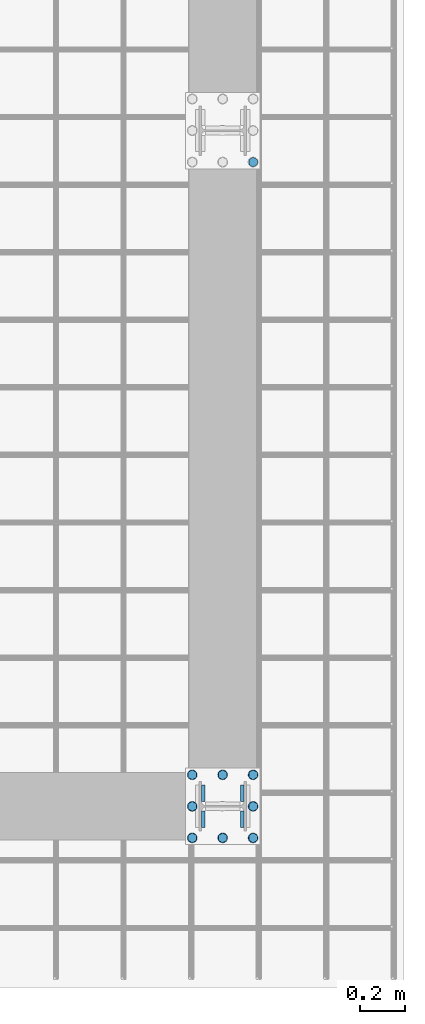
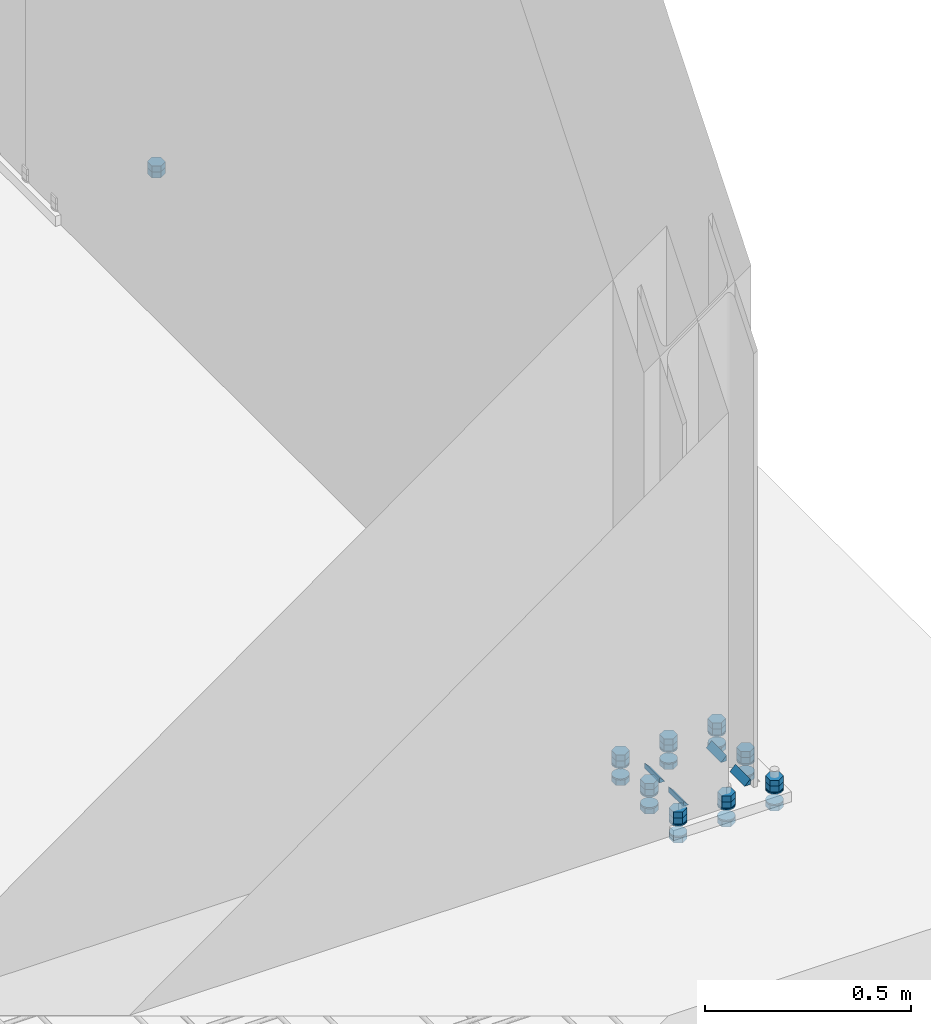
# One storey, part 16 of 29: 42 mechanical fasteners, 8 fasteners.
"""IFC4 building model written with IfcOpenShell, lengths in metres."""

from ifc_helpers import new_model, si_unit, frame, origin_with_axes, place, context, project, spatial, polyline, outline, extrude, type_object, element, save


model = new_model("IFC4")

# Units and contexts
model_context = context("Model", 3, precision=1e-05, world=origin_with_axes())
ifc_project = project(units=[si_unit("LENGTHUNIT", "METRE"), si_unit("AREAUNIT", "SQUARE_METRE"), si_unit("VOLUMEUNIT", "CUBIC_METRE"), si_unit("MASSUNIT", "GRAM", prefix="KILO"), si_unit("TIMEUNIT", "SECOND"), si_unit("PLANEANGLEUNIT", "RADIAN"), si_unit("SOLIDANGLEUNIT", "STERADIAN"), si_unit("THERMODYNAMICTEMPERATUREUNIT", "DEGREE_CELSIUS")], contexts=[model_context])

# Site, building, storey
placement_1 = place(None, origin_with_axes())
site = spatial("IfcSite", under=ifc_project, at=placement_1, Name="Italia", CompositionType="ELEMENT")
building = spatial("IfcBuilding", under=site, at=placement_1, Name="Capannone", CompositionType="ELEMENT")
storey = spatial("IfcBuildingStorey", under=building, at=placement_1, Name="Storey 0", CompositionType="ELEMENT", Elevation=0.0)

# Fasteners
fastener_type_1 = type_object("IfcFastenerType", Name="Collegamenti 0001_0101 0002_0102 0003_0103 0004_0104 0005_0105 0006_0106 0007_0107 0008_0108 0009_0109 0010_0110 0011_0111 0012_0112", PredefinedType="WELD")
placement_2 = place(placement_1, origin_with_axes())
fastener_1_placement = place(placement_2, origin_with_axes())
element("IfcFastener", 1, at=fastener_1_placement, inside=storey, type_object=fastener_type_1, Name="Collegamenti 0001_0101 0002_0102 0003_0103 0004_0104 0005_0105 0006_0106 0007_0107 0008_0108 0009_0109 0010_0110 0011_0111 0012_0112", context=model_context, shape_type="SweptSolid", body=[
    extrude(outline(polyline([(0.0, 0.0), (0.0156889, 0.0161734), (0.0156889, 0.0), (0.0, 0.0)])), frame((13.9216, 0.02145, 0.02995), z_axis=(0.0, 1.0, 0.0), x_axis=(-1.0, 0.0, 0.0)), (0.0, 0.0, 1.0), 0.0726),
])
fastener_type_2 = type_object("IfcFastenerType", Name="Collegamenti 0001_0101 0002_0102 0003_0103 0004_0104 0005_0105 0006_0106 0007_0107 0008_0108 0009_0109 0010_0110 0011_0111 0012_0112", PredefinedType="WELD")
fastener_2_placement = place(placement_2, origin_with_axes())
element("IfcFastener", 2, at=fastener_2_placement, inside=storey, type_object=fastener_type_2, Name="Collegamenti 0001_0101 0002_0102 0003_0103 0004_0104 0005_0105 0006_0106 0007_0107 0008_0108 0009_0109 0010_0110 0011_0111 0012_0112", context=model_context, shape_type="SweptSolid", body=[
    extrude(outline(polyline([(0.0, 0.0), (0.0156889, 0.0161734), (0.0156889, 0.0), (0.0, 0.0)])), frame((14.0784, 0.09405, 0.02995), z_axis=(0.0, -1.0, 0.0), x_axis=(1.0, 0.0, 0.0)), (0.0, 0.0, 1.0), 0.0726),
])
fastener_type_3 = type_object("IfcFastenerType", Name="Collegamenti 0001_0101 0002_0102 0003_0103 0004_0104 0005_0105 0006_0106 0007_0107 0008_0108 0009_0109 0010_0110 0011_0111 0012_0112", PredefinedType="WELD")
fastener_3_placement = place(placement_2, origin_with_axes())
element("IfcFastener", 3, at=fastener_3_placement, inside=storey, type_object=fastener_type_3, Name="Collegamenti 0001_0101 0002_0102 0003_0103 0004_0104 0005_0105 0006_0106 0007_0107 0008_0108 0009_0109 0010_0110 0011_0111 0012_0112", context=model_context, shape_type="SweptSolid", body=[
    extrude(outline(polyline([(0.0, 0.0), (0.0156889, 0.0161734), (0.0156889, 0.0), (0.0, 0.0)])), frame((14.0784, -0.02145, 0.02995), z_axis=(0.0, -1.0, 0.0), x_axis=(1.0, 0.0, 0.0)), (0.0, 0.0, 1.0), 0.0726),
])
fastener_type_4 = type_object("IfcFastenerType", Name="Collegamenti 0001_0101 0002_0102 0003_0103 0004_0104 0005_0105 0006_0106 0007_0107 0008_0108 0009_0109 0010_0110 0011_0111 0012_0112", PredefinedType="WELD")
fastener_4_placement = place(placement_2, origin_with_axes())
element("IfcFastener", 4, at=fastener_4_placement, inside=storey, type_object=fastener_type_4, Name="Collegamenti 0001_0101 0002_0102 0003_0103 0004_0104 0005_0105 0006_0106 0007_0107 0008_0108 0009_0109 0010_0110 0011_0111 0012_0112", context=model_context, shape_type="SweptSolid", body=[
    extrude(outline(polyline([(0.0, 0.0), (0.0156889, 0.0161734), (0.0156889, 0.0), (0.0, 0.0)])), frame((13.9216, -0.09405, 0.02995), z_axis=(0.0, 1.0, 0.0), x_axis=(-1.0, 0.0, 0.0)), (0.0, 0.0, 1.0), 0.0726),
])
fastener_type_5 = type_object("IfcFastenerType", Name="Collegamenti 0001_0101 0002_0102 0003_0103 0004_0104 0005_0105 0006_0106 0007_0107 0008_0108 0009_0109 0010_0110 0011_0111 0012_0112", PredefinedType="WELD")
fastener_5_placement = place(placement_2, origin_with_axes())
element("IfcFastener", 5, at=fastener_5_placement, inside=storey, type_object=fastener_type_5, Name="Collegamenti 0001_0101 0002_0102 0003_0103 0004_0104 0005_0105 0006_0106 0007_0107 0008_0108 0009_0109 0010_0110 0011_0111 0012_0112", context=model_context, shape_type="SweptSolid", body=[
    extrude(outline(polyline([(0.0, 0.0), (0.0156889, 0.0161734), (0.0156889, 0.0), (0.0, 0.0)])), frame((13.9216, 0.02145, 0.02995), z_axis=(0.0, 1.0, 0.0), x_axis=(-1.0, 0.0, 0.0)), (0.0, 0.0, 1.0), 0.0726),
])
fastener_type_6 = type_object("IfcFastenerType", Name="Collegamenti 0001_0101 0002_0102 0003_0103 0004_0104 0005_0105 0006_0106 0007_0107 0008_0108 0009_0109 0010_0110 0011_0111 0012_0112", PredefinedType="WELD")
fastener_6_placement = place(placement_2, origin_with_axes())
element("IfcFastener", 6, at=fastener_6_placement, inside=storey, type_object=fastener_type_6, Name="Collegamenti 0001_0101 0002_0102 0003_0103 0004_0104 0005_0105 0006_0106 0007_0107 0008_0108 0009_0109 0010_0110 0011_0111 0012_0112", context=model_context, shape_type="SweptSolid", body=[
    extrude(outline(polyline([(0.0, 0.0), (0.0156889, 0.0161734), (0.0156889, 0.0), (0.0, 0.0)])), frame((14.0784, 0.09405, 0.02995), z_axis=(0.0, -1.0, 0.0), x_axis=(1.0, 0.0, 0.0)), (0.0, 0.0, 1.0), 0.0726),
])
fastener_type_7 = type_object("IfcFastenerType", Name="Collegamenti 0001_0101 0002_0102 0003_0103 0004_0104 0005_0105 0006_0106 0007_0107 0008_0108 0009_0109 0010_0110 0011_0111 0012_0112", PredefinedType="WELD")
fastener_7_placement = place(placement_2, origin_with_axes())
element("IfcFastener", 7, at=fastener_7_placement, inside=storey, type_object=fastener_type_7, Name="Collegamenti 0001_0101 0002_0102 0003_0103 0004_0104 0005_0105 0006_0106 0007_0107 0008_0108 0009_0109 0010_0110 0011_0111 0012_0112", context=model_context, shape_type="SweptSolid", body=[
    extrude(outline(polyline([(0.0, 0.0), (0.0156889, 0.0161734), (0.0156889, 0.0), (0.0, 0.0)])), frame((14.0784, -0.02145, 0.02995), z_axis=(0.0, -1.0, 0.0), x_axis=(1.0, 0.0, 0.0)), (0.0, 0.0, 1.0), 0.0726),
])
fastener_type_8 = type_object("IfcFastenerType", Name="Collegamenti 0001_0101 0002_0102 0003_0103 0004_0104 0005_0105 0006_0106 0007_0107 0008_0108 0009_0109 0010_0110 0011_0111 0012_0112", PredefinedType="WELD")
fastener_8_placement = place(placement_2, origin_with_axes())
element("IfcFastener", 8, at=fastener_8_placement, inside=storey, type_object=fastener_type_8, Name="Collegamenti 0001_0101 0002_0102 0003_0103 0004_0104 0005_0105 0006_0106 0007_0107 0008_0108 0009_0109 0010_0110 0011_0111 0012_0112", context=model_context, shape_type="SweptSolid", body=[
    extrude(outline(polyline([(0.0, 0.0), (0.0156889, 0.0161734), (0.0156889, 0.0), (0.0, 0.0)])), frame((13.9216, -0.09405, 0.02995), z_axis=(0.0, 1.0, 0.0), x_axis=(-1.0, 0.0, 0.0)), (0.0, 0.0, 1.0), 0.0726),
])

# Mechanical fasteners
mechanical_fastener_type_1 = type_object("IfcMechanicalFastenerType", Name="Collegamenti 0001_0101 0002_0102 0003_0103 0004_0104 0005_0105 0006_0106 0007_0107 0008_0108 0009_0109 0010_0110 0011_0111 0012_0112", PredefinedType="BOLT")
mechanical_fastener_1_placement = place(placement_2, origin_with_axes())
element("IfcMechanicalFastener", 9, at=mechanical_fastener_1_placement, inside=storey, type_object=mechanical_fastener_type_1, Name="Collegamenti 0001_0101 0002_0102 0003_0103 0004_0104 0005_0105 0006_0106 0007_0107 0008_0108 0009_0109 0010_0110 0011_0111 0012_0112", NominalDiameter=0.0219999, context=model_context, shape_type="SweptSolid", body=[
    extrude(outline(polyline([(0.0, 0.0), (-0.022, 0.0), (-0.033, 0.0190525), (-0.022, 0.038105), (0.0, 0.038105), (0.011, 0.0190525), (0.0, 0.0)])), frame((14.1541, -0.129, 0.034), z_axis=(0.0, 0.0, 1.0), x_axis=(0.0, 1.0, 0.0)), (0.0, 0.0, 1.0), 0.0176),
])
mechanical_fastener_type_2 = type_object("IfcMechanicalFastenerType", Name="Collegamenti 0001_0101 0002_0102 0003_0103 0004_0104 0005_0105 0006_0106 0007_0107 0008_0108 0009_0109 0010_0110 0011_0111 0012_0112", PredefinedType="BOLT")
mechanical_fastener_2_placement = place(placement_2, origin_with_axes())
element("IfcMechanicalFastener", 10, at=mechanical_fastener_2_placement, inside=storey, type_object=mechanical_fastener_type_2, Name="Collegamenti 0001_0101 0002_0102 0003_0103 0004_0104 0005_0105 0006_0106 0007_0107 0008_0108 0009_0109 0010_0110 0011_0111 0012_0112", NominalDiameter=0.0219999, context=model_context, shape_type="SweptSolid", body=[
    extrude(outline(polyline([(0.0, 0.0), (-0.022, 0.0), (-0.033, 0.0190525), (-0.022, 0.038105), (0.0, 0.038105), (0.011, 0.0190525), (0.0, 0.0)])), frame((14.1541, -0.129, 0.0516), z_axis=(0.0, 0.0, 1.0), x_axis=(0.0, 1.0, 0.0)), (0.0, 0.0, 1.0), 0.0176),
])
mechanical_fastener_type_3 = type_object("IfcMechanicalFastenerType", Name="Collegamenti 0001_0101 0002_0102 0003_0103 0004_0104 0005_0105 0006_0106 0007_0107 0008_0108 0009_0109 0010_0110 0011_0111 0012_0112", PredefinedType="BOLT")
mechanical_fastener_3_placement = place(placement_2, origin_with_axes())
element("IfcMechanicalFastener", 11, at=mechanical_fastener_3_placement, inside=storey, type_object=mechanical_fastener_type_3, Name="Collegamenti 0001_0101 0002_0102 0003_0103 0004_0104 0005_0105 0006_0106 0007_0107 0008_0108 0009_0109 0010_0110 0011_0111 0012_0112", NominalDiameter=0.0219999, context=model_context, shape_type="SweptSolid", body=[
    extrude(outline(polyline([(0.0, 0.0), (-0.022, 0.0), (-0.033, 0.0190525), (-0.022, 0.038105), (0.0, 0.038105), (0.011, 0.0190525), (0.0, 0.0)])), frame((14.1541, -0.129, -0.0216), z_axis=(0.0, 0.0, 1.0), x_axis=(0.0, 1.0, 0.0)), (0.0, 0.0, 1.0), 0.0176),
])
mechanical_fastener_type_4 = type_object("IfcMechanicalFastenerType", Name="Collegamenti 0001_0101 0002_0102 0003_0103 0004_0104 0005_0105 0006_0106 0007_0107 0008_0108 0009_0109 0010_0110 0011_0111 0012_0112", PredefinedType="BOLT")
mechanical_fastener_4_placement = place(placement_2, origin_with_axes())
element("IfcMechanicalFastener", 12, at=mechanical_fastener_4_placement, inside=storey, type_object=mechanical_fastener_type_4, Name="Collegamenti 0001_0101 0002_0102 0003_0103 0004_0104 0005_0105 0006_0106 0007_0107 0008_0108 0009_0109 0010_0110 0011_0111 0012_0112", NominalDiameter=0.044, context=model_context, shape_type="SweptSolid", body=[
    extrude(outline(polyline([(0.0, 0.0), (-0.000749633, -0.00569439), (-0.00294744, -0.0109997), (-0.00644365, -0.0155563), (-0.011, -0.0190525), (-0.016306, -0.0212507), (-0.022, -0.0220003), (-0.027694, -0.0212507), (-0.033, -0.0190525), (-0.0375564, -0.0155563), (-0.0410526, -0.0109997), (-0.0432504, -0.00569439), (-0.044, 0.0), (-0.0432504, 0.00569439), (-0.0410526, 0.0109997), (-0.0375564, 0.0155563), (-0.033, 0.0190525), (-0.027694, 0.0212507), (-0.022, 0.0220003), (-0.016306, 0.0212507), (-0.011, 0.0190525), (-0.00644365, 0.0155563), (-0.00294743, 0.0109997), (-0.000749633, 0.00569439), (0.0, 0.0)])), frame((14.135, -0.118, 0.03), z_axis=(0.0, 0.0, 1.0), x_axis=(0.0, 1.0, 0.0)), (0.0, 0.0, 1.0), 0.004),
])
mechanical_fastener_type_5 = type_object("IfcMechanicalFastenerType", Name="Collegamenti 0001_0101 0002_0102 0003_0103 0004_0104 0005_0105 0006_0106 0007_0107 0008_0108 0009_0109 0010_0110 0011_0111 0012_0112", PredefinedType="BOLT")
mechanical_fastener_5_placement = place(placement_2, origin_with_axes())
element("IfcMechanicalFastener", 13, at=mechanical_fastener_5_placement, inside=storey, type_object=mechanical_fastener_type_5, Name="Collegamenti 0001_0101 0002_0102 0003_0103 0004_0104 0005_0105 0006_0106 0007_0107 0008_0108 0009_0109 0010_0110 0011_0111 0012_0112", NominalDiameter=0.044, context=model_context, shape_type="SweptSolid", body=[
    extrude(outline(polyline([(0.0, 0.0), (-0.000749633, -0.00569439), (-0.00294744, -0.0109997), (-0.00644365, -0.0155563), (-0.011, -0.0190525), (-0.016306, -0.0212507), (-0.022, -0.0220003), (-0.027694, -0.0212507), (-0.033, -0.0190525), (-0.0375564, -0.0155563), (-0.0410526, -0.0109997), (-0.0432504, -0.00569439), (-0.044, 0.0), (-0.0432504, 0.00569439), (-0.0410526, 0.0109997), (-0.0375564, 0.0155563), (-0.033, 0.0190525), (-0.027694, 0.0212507), (-0.022, 0.0220003), (-0.016306, 0.0212507), (-0.011, 0.0190525), (-0.00644365, 0.0155563), (-0.00294743, 0.0109997), (-0.000749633, 0.00569439), (0.0, 0.0)])), frame((14.135, -0.118, -0.004), z_axis=(0.0, 0.0, 1.0), x_axis=(0.0, 1.0, 0.0)), (0.0, 0.0, 1.0), 0.004),
])
mechanical_fastener_type_6 = type_object("IfcMechanicalFastenerType", Name="Collegamenti 0001_0101 0002_0102 0003_0103 0004_0104 0005_0105 0006_0106 0007_0107 0008_0108 0009_0109 0010_0110 0011_0111 0012_0112", PredefinedType="BOLT")
mechanical_fastener_6_placement = place(placement_2, origin_with_axes())
element("IfcMechanicalFastener", 14, at=mechanical_fastener_6_placement, inside=storey, type_object=mechanical_fastener_type_6, Name="Collegamenti 0001_0101 0002_0102 0003_0103 0004_0104 0005_0105 0006_0106 0007_0107 0008_0108 0009_0109 0010_0110 0011_0111 0012_0112", NominalDiameter=0.022, context=model_context, shape_type="SweptSolid", body=[
    extrude(outline(polyline([(0.0, 0.0), (-0.022, 0.0), (-0.033, 0.0190525), (-0.022, 0.038105), (0.0, 0.038105), (0.011, 0.0190525), (0.0, 0.0)])), frame((14.1541, 0.011, 0.034), z_axis=(0.0, 0.0, 1.0), x_axis=(0.0, 1.0, 0.0)), (0.0, 0.0, 1.0), 0.0176),
])
mechanical_fastener_type_7 = type_object("IfcMechanicalFastenerType", Name="Collegamenti 0001_0101 0002_0102 0003_0103 0004_0104 0005_0105 0006_0106 0007_0107 0008_0108 0009_0109 0010_0110 0011_0111 0012_0112", PredefinedType="BOLT")
mechanical_fastener_7_placement = place(placement_2, origin_with_axes())
element("IfcMechanicalFastener", 15, at=mechanical_fastener_7_placement, inside=storey, type_object=mechanical_fastener_type_7, Name="Collegamenti 0001_0101 0002_0102 0003_0103 0004_0104 0005_0105 0006_0106 0007_0107 0008_0108 0009_0109 0010_0110 0011_0111 0012_0112", NominalDiameter=0.022, context=model_context, shape_type="SweptSolid", body=[
    extrude(outline(polyline([(0.0, 0.0), (-0.022, 0.0), (-0.033, 0.0190525), (-0.022, 0.038105), (0.0, 0.038105), (0.011, 0.0190525), (0.0, 0.0)])), frame((14.1541, 0.011, 0.0516), z_axis=(0.0, 0.0, 1.0), x_axis=(0.0, 1.0, 0.0)), (0.0, 0.0, 1.0), 0.0176),
])
mechanical_fastener_type_8 = type_object("IfcMechanicalFastenerType", Name="Collegamenti 0001_0101 0002_0102 0003_0103 0004_0104 0005_0105 0006_0106 0007_0107 0008_0108 0009_0109 0010_0110 0011_0111 0012_0112", PredefinedType="BOLT")
mechanical_fastener_8_placement = place(placement_2, origin_with_axes())
element("IfcMechanicalFastener", 16, at=mechanical_fastener_8_placement, inside=storey, type_object=mechanical_fastener_type_8, Name="Collegamenti 0001_0101 0002_0102 0003_0103 0004_0104 0005_0105 0006_0106 0007_0107 0008_0108 0009_0109 0010_0110 0011_0111 0012_0112", NominalDiameter=0.022, context=model_context, shape_type="SweptSolid", body=[
    extrude(outline(polyline([(0.0, 0.0), (-0.022, 0.0), (-0.033, 0.0190525), (-0.022, 0.038105), (0.0, 0.038105), (0.011, 0.0190525), (0.0, 0.0)])), frame((14.1541, 0.011, -0.0216), z_axis=(0.0, 0.0, 1.0), x_axis=(0.0, 1.0, 0.0)), (0.0, 0.0, 1.0), 0.0176),
])
mechanical_fastener_type_9 = type_object("IfcMechanicalFastenerType", Name="Collegamenti 0001_0101 0002_0102 0003_0103 0004_0104 0005_0105 0006_0106 0007_0107 0008_0108 0009_0109 0010_0110 0011_0111 0012_0112", PredefinedType="BOLT")
mechanical_fastener_9_placement = place(placement_2, origin_with_axes())
element("IfcMechanicalFastener", 17, at=mechanical_fastener_9_placement, inside=storey, type_object=mechanical_fastener_type_9, Name="Collegamenti 0001_0101 0002_0102 0003_0103 0004_0104 0005_0105 0006_0106 0007_0107 0008_0108 0009_0109 0010_0110 0011_0111 0012_0112", NominalDiameter=0.044, context=model_context, shape_type="SweptSolid", body=[
    extrude(outline(polyline([(0.0, 0.0), (-0.000749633, -0.00569439), (-0.00294744, -0.0109997), (-0.00644365, -0.0155563), (-0.011, -0.0190525), (-0.016306, -0.0212507), (-0.022, -0.0220003), (-0.027694, -0.0212507), (-0.033, -0.0190525), (-0.0375564, -0.0155563), (-0.0410526, -0.0109997), (-0.0432504, -0.00569439), (-0.044, 0.0), (-0.0432504, 0.00569439), (-0.0410526, 0.0109997), (-0.0375563, 0.0155563), (-0.033, 0.0190525), (-0.027694, 0.0212507), (-0.022, 0.0220003), (-0.016306, 0.0212507), (-0.011, 0.0190525), (-0.00644365, 0.0155563), (-0.00294744, 0.0109997), (-0.000749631, 0.00569439), (0.0, 0.0)])), frame((14.135, 0.022, 0.03), z_axis=(0.0, 0.0, 1.0), x_axis=(0.0, 1.0, 0.0)), (0.0, 0.0, 1.0), 0.004),
])
mechanical_fastener_type_10 = type_object("IfcMechanicalFastenerType", Name="Collegamenti 0001_0101 0002_0102 0003_0103 0004_0104 0005_0105 0006_0106 0007_0107 0008_0108 0009_0109 0010_0110 0011_0111 0012_0112", PredefinedType="BOLT")
mechanical_fastener_10_placement = place(placement_2, origin_with_axes())
element("IfcMechanicalFastener", 18, at=mechanical_fastener_10_placement, inside=storey, type_object=mechanical_fastener_type_10, Name="Collegamenti 0001_0101 0002_0102 0003_0103 0004_0104 0005_0105 0006_0106 0007_0107 0008_0108 0009_0109 0010_0110 0011_0111 0012_0112", NominalDiameter=0.044, context=model_context, shape_type="SweptSolid", body=[
    extrude(outline(polyline([(0.0, 0.0), (-0.000749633, -0.00569439), (-0.00294744, -0.0109997), (-0.00644365, -0.0155563), (-0.011, -0.0190525), (-0.016306, -0.0212507), (-0.022, -0.0220003), (-0.027694, -0.0212507), (-0.033, -0.0190525), (-0.0375564, -0.0155563), (-0.0410526, -0.0109997), (-0.0432504, -0.00569439), (-0.044, 0.0), (-0.0432504, 0.00569439), (-0.0410526, 0.0109997), (-0.0375563, 0.0155563), (-0.033, 0.0190525), (-0.027694, 0.0212507), (-0.022, 0.0220003), (-0.016306, 0.0212507), (-0.011, 0.0190525), (-0.00644365, 0.0155563), (-0.00294744, 0.0109997), (-0.000749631, 0.00569439), (0.0, 0.0)])), frame((14.135, 0.022, -0.004), z_axis=(0.0, 0.0, 1.0), x_axis=(0.0, 1.0, 0.0)), (0.0, 0.0, 1.0), 0.004),
])
mechanical_fastener_type_11 = type_object("IfcMechanicalFastenerType", Name="Collegamenti 0001_0101 0002_0102 0003_0103 0004_0104 0005_0105 0006_0106 0007_0107 0008_0108 0009_0109 0010_0110 0011_0111 0012_0112", PredefinedType="BOLT")
mechanical_fastener_11_placement = place(placement_2, origin_with_axes())
element("IfcMechanicalFastener", 19, at=mechanical_fastener_11_placement, inside=storey, type_object=mechanical_fastener_type_11, Name="Collegamenti 0001_0101 0002_0102 0003_0103 0004_0104 0005_0105 0006_0106 0007_0107 0008_0108 0009_0109 0010_0110 0011_0111 0012_0112", NominalDiameter=0.0219999, context=model_context, shape_type="SweptSolid", body=[
    extrude(outline(polyline([(0.0, 0.0), (-0.022, 0.0), (-0.033, 0.0190525), (-0.022, 0.038105), (0.0, 0.038105), (0.011, 0.0190525), (0.0, 0.0)])), frame((14.1541, 0.151, 0.034), z_axis=(0.0, 0.0, 1.0), x_axis=(0.0, 1.0, 0.0)), (0.0, 0.0, 1.0), 0.0176),
])
mechanical_fastener_type_12 = type_object("IfcMechanicalFastenerType", Name="Collegamenti 0001_0101 0002_0102 0003_0103 0004_0104 0005_0105 0006_0106 0007_0107 0008_0108 0009_0109 0010_0110 0011_0111 0012_0112", PredefinedType="BOLT")
mechanical_fastener_12_placement = place(placement_2, origin_with_axes())
element("IfcMechanicalFastener", 20, at=mechanical_fastener_12_placement, inside=storey, type_object=mechanical_fastener_type_12, Name="Collegamenti 0001_0101 0002_0102 0003_0103 0004_0104 0005_0105 0006_0106 0007_0107 0008_0108 0009_0109 0010_0110 0011_0111 0012_0112", NominalDiameter=0.0219999, context=model_context, shape_type="SweptSolid", body=[
    extrude(outline(polyline([(0.0, 0.0), (-0.022, 0.0), (-0.033, 0.0190525), (-0.022, 0.038105), (0.0, 0.038105), (0.011, 0.0190525), (0.0, 0.0)])), frame((14.1541, 0.151, 0.0516), z_axis=(0.0, 0.0, 1.0), x_axis=(0.0, 1.0, 0.0)), (0.0, 0.0, 1.0), 0.0176),
])
mechanical_fastener_type_13 = type_object("IfcMechanicalFastenerType", Name="Collegamenti 0001_0101 0002_0102 0003_0103 0004_0104 0005_0105 0006_0106 0007_0107 0008_0108 0009_0109 0010_0110 0011_0111 0012_0112", PredefinedType="BOLT")
mechanical_fastener_13_placement = place(placement_2, origin_with_axes())
element("IfcMechanicalFastener", 21, at=mechanical_fastener_13_placement, inside=storey, type_object=mechanical_fastener_type_13, Name="Collegamenti 0001_0101 0002_0102 0003_0103 0004_0104 0005_0105 0006_0106 0007_0107 0008_0108 0009_0109 0010_0110 0011_0111 0012_0112", NominalDiameter=0.0219999, context=model_context, shape_type="SweptSolid", body=[
    extrude(outline(polyline([(0.0, 0.0), (-0.022, 0.0), (-0.033, 0.0190525), (-0.022, 0.038105), (0.0, 0.038105), (0.011, 0.0190525), (0.0, 0.0)])), frame((14.1541, 0.151, -0.0216), z_axis=(0.0, 0.0, 1.0), x_axis=(0.0, 1.0, 0.0)), (0.0, 0.0, 1.0), 0.0176),
])
mechanical_fastener_type_14 = type_object("IfcMechanicalFastenerType", Name="Collegamenti 0001_0101 0002_0102 0003_0103 0004_0104 0005_0105 0006_0106 0007_0107 0008_0108 0009_0109 0010_0110 0011_0111 0012_0112", PredefinedType="BOLT")
mechanical_fastener_14_placement = place(placement_2, origin_with_axes())
element("IfcMechanicalFastener", 22, at=mechanical_fastener_14_placement, inside=storey, type_object=mechanical_fastener_type_14, Name="Collegamenti 0001_0101 0002_0102 0003_0103 0004_0104 0005_0105 0006_0106 0007_0107 0008_0108 0009_0109 0010_0110 0011_0111 0012_0112", NominalDiameter=0.044, context=model_context, shape_type="SweptSolid", body=[
    extrude(outline(polyline([(0.0, 0.0), (-0.000749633, -0.00569439), (-0.00294743, -0.0109997), (-0.00644365, -0.0155563), (-0.011, -0.0190525), (-0.016306, -0.0212507), (-0.022, -0.0220003), (-0.027694, -0.0212507), (-0.033, -0.0190525), (-0.0375564, -0.0155563), (-0.0410526, -0.0109997), (-0.0432504, -0.00569439), (-0.044, 0.0), (-0.0432504, 0.00569439), (-0.0410526, 0.0109997), (-0.0375564, 0.0155563), (-0.033, 0.0190525), (-0.027694, 0.0212507), (-0.022, 0.0220003), (-0.016306, 0.0212507), (-0.011, 0.0190525), (-0.00644365, 0.0155563), (-0.00294743, 0.0109997), (-0.000749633, 0.00569439), (0.0, 0.0)])), frame((14.135, 0.162, 0.03), z_axis=(0.0, 0.0, 1.0), x_axis=(0.0, 1.0, 0.0)), (0.0, 0.0, 1.0), 0.004),
])
mechanical_fastener_type_15 = type_object("IfcMechanicalFastenerType", Name="Collegamenti 0001_0101 0002_0102 0003_0103 0004_0104 0005_0105 0006_0106 0007_0107 0008_0108 0009_0109 0010_0110 0011_0111 0012_0112", PredefinedType="BOLT")
mechanical_fastener_15_placement = place(placement_2, origin_with_axes())
element("IfcMechanicalFastener", 23, at=mechanical_fastener_15_placement, inside=storey, type_object=mechanical_fastener_type_15, Name="Collegamenti 0001_0101 0002_0102 0003_0103 0004_0104 0005_0105 0006_0106 0007_0107 0008_0108 0009_0109 0010_0110 0011_0111 0012_0112", NominalDiameter=0.044, context=model_context, shape_type="SweptSolid", body=[
    extrude(outline(polyline([(0.0, 0.0), (-0.000749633, -0.00569439), (-0.00294743, -0.0109997), (-0.00644365, -0.0155563), (-0.011, -0.0190525), (-0.016306, -0.0212507), (-0.022, -0.0220003), (-0.027694, -0.0212507), (-0.033, -0.0190525), (-0.0375564, -0.0155563), (-0.0410526, -0.0109997), (-0.0432504, -0.00569439), (-0.044, 0.0), (-0.0432504, 0.00569439), (-0.0410526, 0.0109997), (-0.0375564, 0.0155563), (-0.033, 0.0190525), (-0.027694, 0.0212507), (-0.022, 0.0220003), (-0.016306, 0.0212507), (-0.011, 0.0190525), (-0.00644365, 0.0155563), (-0.00294743, 0.0109997), (-0.000749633, 0.00569439), (0.0, 0.0)])), frame((14.135, 0.162, -0.004), z_axis=(0.0, 0.0, 1.0), x_axis=(0.0, 1.0, 0.0)), (0.0, 0.0, 1.0), 0.004),
])
mechanical_fastener_type_16 = type_object("IfcMechanicalFastenerType", Name="Collegamenti 0001_0101 0002_0102 0003_0103 0004_0104 0005_0105 0006_0106 0007_0107 0008_0108 0009_0109 0010_0110 0011_0111 0012_0112", PredefinedType="BOLT")
mechanical_fastener_16_placement = place(placement_2, origin_with_axes())
element("IfcMechanicalFastener", 24, at=mechanical_fastener_16_placement, inside=storey, type_object=mechanical_fastener_type_16, Name="Collegamenti 0001_0101 0002_0102 0003_0103 0004_0104 0005_0105 0006_0106 0007_0107 0008_0108 0009_0109 0010_0110 0011_0111 0012_0112", NominalDiameter=0.0219999, context=model_context, shape_type="SweptSolid", body=[
    extrude(outline(polyline([(0.0, 0.0), (-0.022, 0.0), (-0.033, 0.0190525), (-0.022, 0.038105), (0.0, 0.038105), (0.011, 0.0190525), (0.0, 0.0)])), frame((14.0191, -0.129, 0.034), z_axis=(0.0, 0.0, 1.0), x_axis=(0.0, 1.0, 0.0)), (0.0, 0.0, 1.0), 0.0176),
])
mechanical_fastener_type_17 = type_object("IfcMechanicalFastenerType", Name="Collegamenti 0001_0101 0002_0102 0003_0103 0004_0104 0005_0105 0006_0106 0007_0107 0008_0108 0009_0109 0010_0110 0011_0111 0012_0112", PredefinedType="BOLT")
mechanical_fastener_17_placement = place(placement_2, origin_with_axes())
element("IfcMechanicalFastener", 25, at=mechanical_fastener_17_placement, inside=storey, type_object=mechanical_fastener_type_17, Name="Collegamenti 0001_0101 0002_0102 0003_0103 0004_0104 0005_0105 0006_0106 0007_0107 0008_0108 0009_0109 0010_0110 0011_0111 0012_0112", NominalDiameter=0.0219999, context=model_context, shape_type="SweptSolid", body=[
    extrude(outline(polyline([(0.0, 0.0), (-0.022, 0.0), (-0.033, 0.0190525), (-0.022, 0.038105), (0.0, 0.038105), (0.011, 0.0190525), (0.0, 0.0)])), frame((14.0191, -0.129, 0.0516), z_axis=(0.0, 0.0, 1.0), x_axis=(0.0, 1.0, 0.0)), (0.0, 0.0, 1.0), 0.0176),
])
mechanical_fastener_type_18 = type_object("IfcMechanicalFastenerType", Name="Collegamenti 0001_0101 0002_0102 0003_0103 0004_0104 0005_0105 0006_0106 0007_0107 0008_0108 0009_0109 0010_0110 0011_0111 0012_0112", PredefinedType="BOLT")
mechanical_fastener_18_placement = place(placement_2, origin_with_axes())
element("IfcMechanicalFastener", 26, at=mechanical_fastener_18_placement, inside=storey, type_object=mechanical_fastener_type_18, Name="Collegamenti 0001_0101 0002_0102 0003_0103 0004_0104 0005_0105 0006_0106 0007_0107 0008_0108 0009_0109 0010_0110 0011_0111 0012_0112", NominalDiameter=0.0219999, context=model_context, shape_type="SweptSolid", body=[
    extrude(outline(polyline([(0.0, 0.0), (-0.022, 0.0), (-0.033, 0.0190525), (-0.022, 0.038105), (0.0, 0.038105), (0.011, 0.0190525), (0.0, 0.0)])), frame((14.0191, -0.129, -0.0216), z_axis=(0.0, 0.0, 1.0), x_axis=(0.0, 1.0, 0.0)), (0.0, 0.0, 1.0), 0.0176),
])
mechanical_fastener_type_19 = type_object("IfcMechanicalFastenerType", Name="Collegamenti 0001_0101 0002_0102 0003_0103 0004_0104 0005_0105 0006_0106 0007_0107 0008_0108 0009_0109 0010_0110 0011_0111 0012_0112", PredefinedType="BOLT")
mechanical_fastener_19_placement = place(placement_2, origin_with_axes())
element("IfcMechanicalFastener", 27, at=mechanical_fastener_19_placement, inside=storey, type_object=mechanical_fastener_type_19, Name="Collegamenti 0001_0101 0002_0102 0003_0103 0004_0104 0005_0105 0006_0106 0007_0107 0008_0108 0009_0109 0010_0110 0011_0111 0012_0112", NominalDiameter=0.044, context=model_context, shape_type="SweptSolid", body=[
    extrude(outline(polyline([(0.0, 0.0), (-0.000749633, -0.00569439), (-0.00294744, -0.0109997), (-0.00644365, -0.0155563), (-0.011, -0.0190525), (-0.016306, -0.0212507), (-0.022, -0.0220003), (-0.027694, -0.0212507), (-0.033, -0.0190525), (-0.0375564, -0.0155563), (-0.0410526, -0.0109997), (-0.0432504, -0.00569439), (-0.044, 0.0), (-0.0432504, 0.00569439), (-0.0410526, 0.0109997), (-0.0375564, 0.0155563), (-0.033, 0.0190525), (-0.027694, 0.0212507), (-0.022, 0.0220003), (-0.016306, 0.0212507), (-0.011, 0.0190525), (-0.00644365, 0.0155563), (-0.00294743, 0.0109997), (-0.000749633, 0.00569439), (0.0, 0.0)])), frame((14.0, -0.118, 0.03), z_axis=(0.0, 0.0, 1.0), x_axis=(0.0, 1.0, 0.0)), (0.0, 0.0, 1.0), 0.004),
])
mechanical_fastener_type_20 = type_object("IfcMechanicalFastenerType", Name="Collegamenti 0001_0101 0002_0102 0003_0103 0004_0104 0005_0105 0006_0106 0007_0107 0008_0108 0009_0109 0010_0110 0011_0111 0012_0112", PredefinedType="BOLT")
mechanical_fastener_20_placement = place(placement_2, origin_with_axes())
element("IfcMechanicalFastener", 28, at=mechanical_fastener_20_placement, inside=storey, type_object=mechanical_fastener_type_20, Name="Collegamenti 0001_0101 0002_0102 0003_0103 0004_0104 0005_0105 0006_0106 0007_0107 0008_0108 0009_0109 0010_0110 0011_0111 0012_0112", NominalDiameter=0.044, context=model_context, shape_type="SweptSolid", body=[
    extrude(outline(polyline([(0.0, 0.0), (-0.000749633, -0.00569439), (-0.00294744, -0.0109997), (-0.00644365, -0.0155563), (-0.011, -0.0190525), (-0.016306, -0.0212507), (-0.022, -0.0220003), (-0.027694, -0.0212507), (-0.033, -0.0190525), (-0.0375564, -0.0155563), (-0.0410526, -0.0109997), (-0.0432504, -0.00569439), (-0.044, 0.0), (-0.0432504, 0.00569439), (-0.0410526, 0.0109997), (-0.0375564, 0.0155563), (-0.033, 0.0190525), (-0.027694, 0.0212507), (-0.022, 0.0220003), (-0.016306, 0.0212507), (-0.011, 0.0190525), (-0.00644365, 0.0155563), (-0.00294743, 0.0109997), (-0.000749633, 0.00569439), (0.0, 0.0)])), frame((14.0, -0.118, -0.004), z_axis=(0.0, 0.0, 1.0), x_axis=(0.0, 1.0, 0.0)), (0.0, 0.0, 1.0), 0.004),
])
mechanical_fastener_type_21 = type_object("IfcMechanicalFastenerType", Name="Collegamenti 0001_0101 0002_0102 0003_0103 0004_0104 0005_0105 0006_0106 0007_0107 0008_0108 0009_0109 0010_0110 0011_0111 0012_0112", PredefinedType="BOLT")
mechanical_fastener_21_placement = place(placement_2, origin_with_axes())
element("IfcMechanicalFastener", 29, at=mechanical_fastener_21_placement, inside=storey, type_object=mechanical_fastener_type_21, Name="Collegamenti 0001_0101 0002_0102 0003_0103 0004_0104 0005_0105 0006_0106 0007_0107 0008_0108 0009_0109 0010_0110 0011_0111 0012_0112", NominalDiameter=0.0219999, context=model_context, shape_type="SweptSolid", body=[
    extrude(outline(polyline([(0.0, 0.0), (-0.022, 0.0), (-0.033, 0.0190525), (-0.022, 0.038105), (0.0, 0.038105), (0.011, 0.0190525), (0.0, 0.0)])), frame((14.0191, 0.151, 0.034), z_axis=(0.0, 0.0, 1.0), x_axis=(0.0, 1.0, 0.0)), (0.0, 0.0, 1.0), 0.0176),
])
mechanical_fastener_type_22 = type_object("IfcMechanicalFastenerType", Name="Collegamenti 0001_0101 0002_0102 0003_0103 0004_0104 0005_0105 0006_0106 0007_0107 0008_0108 0009_0109 0010_0110 0011_0111 0012_0112", PredefinedType="BOLT")
mechanical_fastener_22_placement = place(placement_2, origin_with_axes())
element("IfcMechanicalFastener", 30, at=mechanical_fastener_22_placement, inside=storey, type_object=mechanical_fastener_type_22, Name="Collegamenti 0001_0101 0002_0102 0003_0103 0004_0104 0005_0105 0006_0106 0007_0107 0008_0108 0009_0109 0010_0110 0011_0111 0012_0112", NominalDiameter=0.0219999, context=model_context, shape_type="SweptSolid", body=[
    extrude(outline(polyline([(0.0, 0.0), (-0.022, 0.0), (-0.033, 0.0190525), (-0.022, 0.038105), (0.0, 0.038105), (0.011, 0.0190525), (0.0, 0.0)])), frame((14.0191, 0.151, 0.0516), z_axis=(0.0, 0.0, 1.0), x_axis=(0.0, 1.0, 0.0)), (0.0, 0.0, 1.0), 0.0176),
])
mechanical_fastener_type_23 = type_object("IfcMechanicalFastenerType", Name="Collegamenti 0001_0101 0002_0102 0003_0103 0004_0104 0005_0105 0006_0106 0007_0107 0008_0108 0009_0109 0010_0110 0011_0111 0012_0112", PredefinedType="BOLT")
mechanical_fastener_23_placement = place(placement_2, origin_with_axes())
element("IfcMechanicalFastener", 31, at=mechanical_fastener_23_placement, inside=storey, type_object=mechanical_fastener_type_23, Name="Collegamenti 0001_0101 0002_0102 0003_0103 0004_0104 0005_0105 0006_0106 0007_0107 0008_0108 0009_0109 0010_0110 0011_0111 0012_0112", NominalDiameter=0.0219999, context=model_context, shape_type="SweptSolid", body=[
    extrude(outline(polyline([(0.0, 0.0), (-0.022, 0.0), (-0.033, 0.0190525), (-0.022, 0.038105), (0.0, 0.038105), (0.011, 0.0190525), (0.0, 0.0)])), frame((14.0191, 0.151, -0.0216), z_axis=(0.0, 0.0, 1.0), x_axis=(0.0, 1.0, 0.0)), (0.0, 0.0, 1.0), 0.0176),
])
mechanical_fastener_type_24 = type_object("IfcMechanicalFastenerType", Name="Collegamenti 0001_0101 0002_0102 0003_0103 0004_0104 0005_0105 0006_0106 0007_0107 0008_0108 0009_0109 0010_0110 0011_0111 0012_0112", PredefinedType="BOLT")
mechanical_fastener_24_placement = place(placement_2, origin_with_axes())
element("IfcMechanicalFastener", 32, at=mechanical_fastener_24_placement, inside=storey, type_object=mechanical_fastener_type_24, Name="Collegamenti 0001_0101 0002_0102 0003_0103 0004_0104 0005_0105 0006_0106 0007_0107 0008_0108 0009_0109 0010_0110 0011_0111 0012_0112", NominalDiameter=0.044, context=model_context, shape_type="SweptSolid", body=[
    extrude(outline(polyline([(0.0, 0.0), (-0.000749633, -0.00569439), (-0.00294743, -0.0109997), (-0.00644365, -0.0155563), (-0.011, -0.0190525), (-0.016306, -0.0212507), (-0.022, -0.0220003), (-0.027694, -0.0212507), (-0.033, -0.0190525), (-0.0375564, -0.0155563), (-0.0410526, -0.0109997), (-0.0432504, -0.00569439), (-0.044, 0.0), (-0.0432504, 0.00569439), (-0.0410526, 0.0109997), (-0.0375564, 0.0155563), (-0.033, 0.0190525), (-0.027694, 0.0212507), (-0.022, 0.0220003), (-0.016306, 0.0212507), (-0.011, 0.0190525), (-0.00644365, 0.0155563), (-0.00294743, 0.0109997), (-0.000749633, 0.00569439), (0.0, 0.0)])), frame((14.0, 0.162, 0.03), z_axis=(0.0, 0.0, 1.0), x_axis=(0.0, 1.0, 0.0)), (0.0, 0.0, 1.0), 0.004),
])
mechanical_fastener_type_25 = type_object("IfcMechanicalFastenerType", Name="Collegamenti 0001_0101 0002_0102 0003_0103 0004_0104 0005_0105 0006_0106 0007_0107 0008_0108 0009_0109 0010_0110 0011_0111 0012_0112", PredefinedType="BOLT")
mechanical_fastener_25_placement = place(placement_2, origin_with_axes())
element("IfcMechanicalFastener", 33, at=mechanical_fastener_25_placement, inside=storey, type_object=mechanical_fastener_type_25, Name="Collegamenti 0001_0101 0002_0102 0003_0103 0004_0104 0005_0105 0006_0106 0007_0107 0008_0108 0009_0109 0010_0110 0011_0111 0012_0112", NominalDiameter=0.044, context=model_context, shape_type="SweptSolid", body=[
    extrude(outline(polyline([(0.0, 0.0), (-0.000749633, -0.00569439), (-0.00294743, -0.0109997), (-0.00644365, -0.0155563), (-0.011, -0.0190525), (-0.016306, -0.0212507), (-0.022, -0.0220003), (-0.027694, -0.0212507), (-0.033, -0.0190525), (-0.0375564, -0.0155563), (-0.0410526, -0.0109997), (-0.0432504, -0.00569439), (-0.044, 0.0), (-0.0432504, 0.00569439), (-0.0410526, 0.0109997), (-0.0375564, 0.0155563), (-0.033, 0.0190525), (-0.027694, 0.0212507), (-0.022, 0.0220003), (-0.016306, 0.0212507), (-0.011, 0.0190525), (-0.00644365, 0.0155563), (-0.00294743, 0.0109997), (-0.000749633, 0.00569439), (0.0, 0.0)])), frame((14.0, 0.162, -0.004), z_axis=(0.0, 0.0, 1.0), x_axis=(0.0, 1.0, 0.0)), (0.0, 0.0, 1.0), 0.004),
])
mechanical_fastener_type_26 = type_object("IfcMechanicalFastenerType", Name="Collegamenti 0001_0101 0002_0102 0003_0103 0004_0104 0005_0105 0006_0106 0007_0107 0008_0108 0009_0109 0010_0110 0011_0111 0012_0112", PredefinedType="BOLT")
mechanical_fastener_26_placement = place(placement_2, origin_with_axes())
element("IfcMechanicalFastener", 34, at=mechanical_fastener_26_placement, inside=storey, type_object=mechanical_fastener_type_26, Name="Collegamenti 0001_0101 0002_0102 0003_0103 0004_0104 0005_0105 0006_0106 0007_0107 0008_0108 0009_0109 0010_0110 0011_0111 0012_0112", NominalDiameter=0.0219999, context=model_context, shape_type="SweptSolid", body=[
    extrude(outline(polyline([(0.0, 0.0), (-0.022, 0.0), (-0.033, 0.0190525), (-0.022, 0.038105), (0.0, 0.038105), (0.011, 0.0190525), (0.0, 0.0)])), frame((13.8841, -0.129, 0.034), z_axis=(0.0, 0.0, 1.0), x_axis=(0.0, 1.0, 0.0)), (0.0, 0.0, 1.0), 0.0176),
])
mechanical_fastener_type_27 = type_object("IfcMechanicalFastenerType", Name="Collegamenti 0001_0101 0002_0102 0003_0103 0004_0104 0005_0105 0006_0106 0007_0107 0008_0108 0009_0109 0010_0110 0011_0111 0012_0112", PredefinedType="BOLT")
mechanical_fastener_27_placement = place(placement_2, origin_with_axes())
element("IfcMechanicalFastener", 35, at=mechanical_fastener_27_placement, inside=storey, type_object=mechanical_fastener_type_27, Name="Collegamenti 0001_0101 0002_0102 0003_0103 0004_0104 0005_0105 0006_0106 0007_0107 0008_0108 0009_0109 0010_0110 0011_0111 0012_0112", NominalDiameter=0.0219999, context=model_context, shape_type="SweptSolid", body=[
    extrude(outline(polyline([(0.0, 0.0), (-0.022, 0.0), (-0.033, 0.0190525), (-0.022, 0.038105), (0.0, 0.038105), (0.011, 0.0190525), (0.0, 0.0)])), frame((13.8841, -0.129, 0.0516), z_axis=(0.0, 0.0, 1.0), x_axis=(0.0, 1.0, 0.0)), (0.0, 0.0, 1.0), 0.0176),
])
mechanical_fastener_type_28 = type_object("IfcMechanicalFastenerType", Name="Collegamenti 0001_0101 0002_0102 0003_0103 0004_0104 0005_0105 0006_0106 0007_0107 0008_0108 0009_0109 0010_0110 0011_0111 0012_0112", PredefinedType="BOLT")
mechanical_fastener_28_placement = place(placement_2, origin_with_axes())
element("IfcMechanicalFastener", 36, at=mechanical_fastener_28_placement, inside=storey, type_object=mechanical_fastener_type_28, Name="Collegamenti 0001_0101 0002_0102 0003_0103 0004_0104 0005_0105 0006_0106 0007_0107 0008_0108 0009_0109 0010_0110 0011_0111 0012_0112", NominalDiameter=0.0219999, context=model_context, shape_type="SweptSolid", body=[
    extrude(outline(polyline([(0.0, 0.0), (-0.022, 0.0), (-0.033, 0.0190525), (-0.022, 0.038105), (0.0, 0.038105), (0.011, 0.0190525), (0.0, 0.0)])), frame((13.8841, -0.129, -0.0216), z_axis=(0.0, 0.0, 1.0), x_axis=(0.0, 1.0, 0.0)), (0.0, 0.0, 1.0), 0.0176),
])
mechanical_fastener_type_29 = type_object("IfcMechanicalFastenerType", Name="Collegamenti 0001_0101 0002_0102 0003_0103 0004_0104 0005_0105 0006_0106 0007_0107 0008_0108 0009_0109 0010_0110 0011_0111 0012_0112", PredefinedType="BOLT")
mechanical_fastener_29_placement = place(placement_2, origin_with_axes())
element("IfcMechanicalFastener", 37, at=mechanical_fastener_29_placement, inside=storey, type_object=mechanical_fastener_type_29, Name="Collegamenti 0001_0101 0002_0102 0003_0103 0004_0104 0005_0105 0006_0106 0007_0107 0008_0108 0009_0109 0010_0110 0011_0111 0012_0112", NominalDiameter=0.044, context=model_context, shape_type="SweptSolid", body=[
    extrude(outline(polyline([(0.0, 0.0), (-0.000749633, -0.00569439), (-0.00294744, -0.0109997), (-0.00644365, -0.0155563), (-0.011, -0.0190525), (-0.016306, -0.0212507), (-0.022, -0.0220003), (-0.027694, -0.0212507), (-0.033, -0.0190525), (-0.0375564, -0.0155563), (-0.0410526, -0.0109997), (-0.0432504, -0.00569439), (-0.044, 0.0), (-0.0432504, 0.00569439), (-0.0410526, 0.0109997), (-0.0375564, 0.0155563), (-0.033, 0.0190525), (-0.027694, 0.0212507), (-0.022, 0.0220003), (-0.016306, 0.0212507), (-0.011, 0.0190525), (-0.00644365, 0.0155563), (-0.00294743, 0.0109997), (-0.000749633, 0.00569439), (0.0, 0.0)])), frame((13.865, -0.118, 0.03), z_axis=(0.0, 0.0, 1.0), x_axis=(0.0, 1.0, 0.0)), (0.0, 0.0, 1.0), 0.004),
])
mechanical_fastener_type_30 = type_object("IfcMechanicalFastenerType", Name="Collegamenti 0001_0101 0002_0102 0003_0103 0004_0104 0005_0105 0006_0106 0007_0107 0008_0108 0009_0109 0010_0110 0011_0111 0012_0112", PredefinedType="BOLT")
mechanical_fastener_30_placement = place(placement_2, origin_with_axes())
element("IfcMechanicalFastener", 38, at=mechanical_fastener_30_placement, inside=storey, type_object=mechanical_fastener_type_30, Name="Collegamenti 0001_0101 0002_0102 0003_0103 0004_0104 0005_0105 0006_0106 0007_0107 0008_0108 0009_0109 0010_0110 0011_0111 0012_0112", NominalDiameter=0.044, context=model_context, shape_type="SweptSolid", body=[
    extrude(outline(polyline([(0.0, 0.0), (-0.000749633, -0.00569439), (-0.00294744, -0.0109997), (-0.00644365, -0.0155563), (-0.011, -0.0190525), (-0.016306, -0.0212507), (-0.022, -0.0220003), (-0.027694, -0.0212507), (-0.033, -0.0190525), (-0.0375564, -0.0155563), (-0.0410526, -0.0109997), (-0.0432504, -0.00569439), (-0.044, 0.0), (-0.0432504, 0.00569439), (-0.0410526, 0.0109997), (-0.0375564, 0.0155563), (-0.033, 0.0190525), (-0.027694, 0.0212507), (-0.022, 0.0220003), (-0.016306, 0.0212507), (-0.011, 0.0190525), (-0.00644365, 0.0155563), (-0.00294743, 0.0109997), (-0.000749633, 0.00569439), (0.0, 0.0)])), frame((13.865, -0.118, -0.004), z_axis=(0.0, 0.0, 1.0), x_axis=(0.0, 1.0, 0.0)), (0.0, 0.0, 1.0), 0.004),
])
mechanical_fastener_type_31 = type_object("IfcMechanicalFastenerType", Name="Collegamenti 0001_0101 0002_0102 0003_0103 0004_0104 0005_0105 0006_0106 0007_0107 0008_0108 0009_0109 0010_0110 0011_0111 0012_0112", PredefinedType="BOLT")
mechanical_fastener_31_placement = place(placement_2, origin_with_axes())
element("IfcMechanicalFastener", 39, at=mechanical_fastener_31_placement, inside=storey, type_object=mechanical_fastener_type_31, Name="Collegamenti 0001_0101 0002_0102 0003_0103 0004_0104 0005_0105 0006_0106 0007_0107 0008_0108 0009_0109 0010_0110 0011_0111 0012_0112", NominalDiameter=0.022, context=model_context, shape_type="SweptSolid", body=[
    extrude(outline(polyline([(0.0, 0.0), (-0.022, 0.0), (-0.033, 0.0190525), (-0.022, 0.038105), (0.0, 0.038105), (0.011, 0.0190525), (0.0, 0.0)])), frame((13.8841, 0.011, 0.034), z_axis=(0.0, 0.0, 1.0), x_axis=(0.0, 1.0, 0.0)), (0.0, 0.0, 1.0), 0.0176),
])
mechanical_fastener_type_32 = type_object("IfcMechanicalFastenerType", Name="Collegamenti 0001_0101 0002_0102 0003_0103 0004_0104 0005_0105 0006_0106 0007_0107 0008_0108 0009_0109 0010_0110 0011_0111 0012_0112", PredefinedType="BOLT")
mechanical_fastener_32_placement = place(placement_2, origin_with_axes())
element("IfcMechanicalFastener", 40, at=mechanical_fastener_32_placement, inside=storey, type_object=mechanical_fastener_type_32, Name="Collegamenti 0001_0101 0002_0102 0003_0103 0004_0104 0005_0105 0006_0106 0007_0107 0008_0108 0009_0109 0010_0110 0011_0111 0012_0112", NominalDiameter=0.022, context=model_context, shape_type="SweptSolid", body=[
    extrude(outline(polyline([(0.0, 0.0), (-0.022, 0.0), (-0.033, 0.0190525), (-0.022, 0.038105), (0.0, 0.038105), (0.011, 0.0190525), (0.0, 0.0)])), frame((13.8841, 0.011, 0.0516), z_axis=(0.0, 0.0, 1.0), x_axis=(0.0, 1.0, 0.0)), (0.0, 0.0, 1.0), 0.0176),
])
mechanical_fastener_type_33 = type_object("IfcMechanicalFastenerType", Name="Collegamenti 0001_0101 0002_0102 0003_0103 0004_0104 0005_0105 0006_0106 0007_0107 0008_0108 0009_0109 0010_0110 0011_0111 0012_0112", PredefinedType="BOLT")
mechanical_fastener_33_placement = place(placement_2, origin_with_axes())
element("IfcMechanicalFastener", 41, at=mechanical_fastener_33_placement, inside=storey, type_object=mechanical_fastener_type_33, Name="Collegamenti 0001_0101 0002_0102 0003_0103 0004_0104 0005_0105 0006_0106 0007_0107 0008_0108 0009_0109 0010_0110 0011_0111 0012_0112", NominalDiameter=0.022, context=model_context, shape_type="SweptSolid", body=[
    extrude(outline(polyline([(0.0, 0.0), (-0.022, 0.0), (-0.033, 0.0190525), (-0.022, 0.038105), (0.0, 0.038105), (0.011, 0.0190525), (0.0, 0.0)])), frame((13.8841, 0.011, -0.0216), z_axis=(0.0, 0.0, 1.0), x_axis=(0.0, 1.0, 0.0)), (0.0, 0.0, 1.0), 0.0176),
])
mechanical_fastener_type_34 = type_object("IfcMechanicalFastenerType", Name="Collegamenti 0001_0101 0002_0102 0003_0103 0004_0104 0005_0105 0006_0106 0007_0107 0008_0108 0009_0109 0010_0110 0011_0111 0012_0112", PredefinedType="BOLT")
mechanical_fastener_34_placement = place(placement_2, origin_with_axes())
element("IfcMechanicalFastener", 42, at=mechanical_fastener_34_placement, inside=storey, type_object=mechanical_fastener_type_34, Name="Collegamenti 0001_0101 0002_0102 0003_0103 0004_0104 0005_0105 0006_0106 0007_0107 0008_0108 0009_0109 0010_0110 0011_0111 0012_0112", NominalDiameter=0.044, context=model_context, shape_type="SweptSolid", body=[
    extrude(outline(polyline([(0.0, 0.0), (-0.000749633, -0.00569439), (-0.00294744, -0.0109997), (-0.00644365, -0.0155563), (-0.011, -0.0190525), (-0.016306, -0.0212507), (-0.022, -0.0220003), (-0.027694, -0.0212507), (-0.033, -0.0190525), (-0.0375564, -0.0155563), (-0.0410526, -0.0109997), (-0.0432504, -0.00569439), (-0.044, 0.0), (-0.0432504, 0.00569439), (-0.0410526, 0.0109997), (-0.0375563, 0.0155563), (-0.033, 0.0190525), (-0.027694, 0.0212507), (-0.022, 0.0220003), (-0.016306, 0.0212507), (-0.011, 0.0190525), (-0.00644365, 0.0155563), (-0.00294744, 0.0109997), (-0.000749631, 0.00569439), (0.0, 0.0)])), frame((13.865, 0.022, 0.03), z_axis=(0.0, 0.0, 1.0), x_axis=(0.0, 1.0, 0.0)), (0.0, 0.0, 1.0), 0.004),
])
mechanical_fastener_type_35 = type_object("IfcMechanicalFastenerType", Name="Collegamenti 0001_0101 0002_0102 0003_0103 0004_0104 0005_0105 0006_0106 0007_0107 0008_0108 0009_0109 0010_0110 0011_0111 0012_0112", PredefinedType="BOLT")
mechanical_fastener_35_placement = place(placement_2, origin_with_axes())
element("IfcMechanicalFastener", 43, at=mechanical_fastener_35_placement, inside=storey, type_object=mechanical_fastener_type_35, Name="Collegamenti 0001_0101 0002_0102 0003_0103 0004_0104 0005_0105 0006_0106 0007_0107 0008_0108 0009_0109 0010_0110 0011_0111 0012_0112", NominalDiameter=0.044, context=model_context, shape_type="SweptSolid", body=[
    extrude(outline(polyline([(0.0, 0.0), (-0.000749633, -0.00569439), (-0.00294744, -0.0109997), (-0.00644365, -0.0155563), (-0.011, -0.0190525), (-0.016306, -0.0212507), (-0.022, -0.0220003), (-0.027694, -0.0212507), (-0.033, -0.0190525), (-0.0375564, -0.0155563), (-0.0410526, -0.0109997), (-0.0432504, -0.00569439), (-0.044, 0.0), (-0.0432504, 0.00569439), (-0.0410526, 0.0109997), (-0.0375563, 0.0155563), (-0.033, 0.0190525), (-0.027694, 0.0212507), (-0.022, 0.0220003), (-0.016306, 0.0212507), (-0.011, 0.0190525), (-0.00644365, 0.0155563), (-0.00294744, 0.0109997), (-0.000749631, 0.00569439), (0.0, 0.0)])), frame((13.865, 0.022, -0.004), z_axis=(0.0, 0.0, 1.0), x_axis=(0.0, 1.0, 0.0)), (0.0, 0.0, 1.0), 0.004),
])
mechanical_fastener_type_36 = type_object("IfcMechanicalFastenerType", Name="Collegamenti 0001_0101 0002_0102 0003_0103 0004_0104 0005_0105 0006_0106 0007_0107 0008_0108 0009_0109 0010_0110 0011_0111 0012_0112", PredefinedType="BOLT")
mechanical_fastener_36_placement = place(placement_2, origin_with_axes())
element("IfcMechanicalFastener", 44, at=mechanical_fastener_36_placement, inside=storey, type_object=mechanical_fastener_type_36, Name="Collegamenti 0001_0101 0002_0102 0003_0103 0004_0104 0005_0105 0006_0106 0007_0107 0008_0108 0009_0109 0010_0110 0011_0111 0012_0112", NominalDiameter=0.0219999, context=model_context, shape_type="SweptSolid", body=[
    extrude(outline(polyline([(0.0, 0.0), (-0.022, 0.0), (-0.033, 0.0190525), (-0.022, 0.038105), (0.0, 0.038105), (0.011, 0.0190525), (0.0, 0.0)])), frame((13.8841, 0.151, 0.034), z_axis=(0.0, 0.0, 1.0), x_axis=(0.0, 1.0, 0.0)), (0.0, 0.0, 1.0), 0.0176),
])
mechanical_fastener_type_37 = type_object("IfcMechanicalFastenerType", Name="Collegamenti 0001_0101 0002_0102 0003_0103 0004_0104 0005_0105 0006_0106 0007_0107 0008_0108 0009_0109 0010_0110 0011_0111 0012_0112", PredefinedType="BOLT")
mechanical_fastener_37_placement = place(placement_2, origin_with_axes())
element("IfcMechanicalFastener", 45, at=mechanical_fastener_37_placement, inside=storey, type_object=mechanical_fastener_type_37, Name="Collegamenti 0001_0101 0002_0102 0003_0103 0004_0104 0005_0105 0006_0106 0007_0107 0008_0108 0009_0109 0010_0110 0011_0111 0012_0112", NominalDiameter=0.0219999, context=model_context, shape_type="SweptSolid", body=[
    extrude(outline(polyline([(0.0, 0.0), (-0.022, 0.0), (-0.033, 0.0190525), (-0.022, 0.038105), (0.0, 0.038105), (0.011, 0.0190525), (0.0, 0.0)])), frame((13.8841, 0.151, 0.0516), z_axis=(0.0, 0.0, 1.0), x_axis=(0.0, 1.0, 0.0)), (0.0, 0.0, 1.0), 0.0176),
])
mechanical_fastener_type_38 = type_object("IfcMechanicalFastenerType", Name="Collegamenti 0001_0101 0002_0102 0003_0103 0004_0104 0005_0105 0006_0106 0007_0107 0008_0108 0009_0109 0010_0110 0011_0111 0012_0112", PredefinedType="BOLT")
mechanical_fastener_38_placement = place(placement_2, origin_with_axes())
element("IfcMechanicalFastener", 46, at=mechanical_fastener_38_placement, inside=storey, type_object=mechanical_fastener_type_38, Name="Collegamenti 0001_0101 0002_0102 0003_0103 0004_0104 0005_0105 0006_0106 0007_0107 0008_0108 0009_0109 0010_0110 0011_0111 0012_0112", NominalDiameter=0.0219999, context=model_context, shape_type="SweptSolid", body=[
    extrude(outline(polyline([(0.0, 0.0), (-0.022, 0.0), (-0.033, 0.0190525), (-0.022, 0.038105), (0.0, 0.038105), (0.011, 0.0190525), (0.0, 0.0)])), frame((13.8841, 0.151, -0.0216), z_axis=(0.0, 0.0, 1.0), x_axis=(0.0, 1.0, 0.0)), (0.0, 0.0, 1.0), 0.0176),
])
mechanical_fastener_type_39 = type_object("IfcMechanicalFastenerType", Name="Collegamenti 0001_0101 0002_0102 0003_0103 0004_0104 0005_0105 0006_0106 0007_0107 0008_0108 0009_0109 0010_0110 0011_0111 0012_0112", PredefinedType="BOLT")
mechanical_fastener_39_placement = place(placement_2, origin_with_axes())
element("IfcMechanicalFastener", 47, at=mechanical_fastener_39_placement, inside=storey, type_object=mechanical_fastener_type_39, Name="Collegamenti 0001_0101 0002_0102 0003_0103 0004_0104 0005_0105 0006_0106 0007_0107 0008_0108 0009_0109 0010_0110 0011_0111 0012_0112", NominalDiameter=0.044, context=model_context, shape_type="SweptSolid", body=[
    extrude(outline(polyline([(0.0, 0.0), (-0.000749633, -0.00569439), (-0.00294743, -0.0109997), (-0.00644365, -0.0155563), (-0.011, -0.0190525), (-0.016306, -0.0212507), (-0.022, -0.0220003), (-0.027694, -0.0212507), (-0.033, -0.0190525), (-0.0375564, -0.0155563), (-0.0410526, -0.0109997), (-0.0432504, -0.00569439), (-0.044, 0.0), (-0.0432504, 0.00569439), (-0.0410526, 0.0109997), (-0.0375564, 0.0155563), (-0.033, 0.0190525), (-0.027694, 0.0212507), (-0.022, 0.0220003), (-0.016306, 0.0212507), (-0.011, 0.0190525), (-0.00644365, 0.0155563), (-0.00294743, 0.0109997), (-0.000749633, 0.00569439), (0.0, 0.0)])), frame((13.865, 0.162, 0.03), z_axis=(0.0, 0.0, 1.0), x_axis=(0.0, 1.0, 0.0)), (0.0, 0.0, 1.0), 0.004),
])
mechanical_fastener_type_40 = type_object("IfcMechanicalFastenerType", Name="Collegamenti 0001_0101 0002_0102 0003_0103 0004_0104 0005_0105 0006_0106 0007_0107 0008_0108 0009_0109 0010_0110 0011_0111 0012_0112", PredefinedType="BOLT")
mechanical_fastener_40_placement = place(placement_2, origin_with_axes())
element("IfcMechanicalFastener", 48, at=mechanical_fastener_40_placement, inside=storey, type_object=mechanical_fastener_type_40, Name="Collegamenti 0001_0101 0002_0102 0003_0103 0004_0104 0005_0105 0006_0106 0007_0107 0008_0108 0009_0109 0010_0110 0011_0111 0012_0112", NominalDiameter=0.044, context=model_context, shape_type="SweptSolid", body=[
    extrude(outline(polyline([(0.0, 0.0), (-0.000749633, -0.00569439), (-0.00294743, -0.0109997), (-0.00644365, -0.0155563), (-0.011, -0.0190525), (-0.016306, -0.0212507), (-0.022, -0.0220003), (-0.027694, -0.0212507), (-0.033, -0.0190525), (-0.0375564, -0.0155563), (-0.0410526, -0.0109997), (-0.0432504, -0.00569439), (-0.044, 0.0), (-0.0432504, 0.00569439), (-0.0410526, 0.0109997), (-0.0375564, 0.0155563), (-0.033, 0.0190525), (-0.027694, 0.0212507), (-0.022, 0.0220003), (-0.016306, 0.0212507), (-0.011, 0.0190525), (-0.00644365, 0.0155563), (-0.00294743, 0.0109997), (-0.000749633, 0.00569439), (0.0, 0.0)])), frame((13.865, 0.162, -0.004), z_axis=(0.0, 0.0, 1.0), x_axis=(0.0, 1.0, 0.0)), (0.0, 0.0, 1.0), 0.004),
])
mechanical_fastener_type_41 = type_object("IfcMechanicalFastenerType", Name="Collegamenti 0001_0101 0002_0102 0003_0103 0004_0104 0005_0105 0006_0106 0007_0107 0008_0108 0009_0109 0010_0110 0011_0111 0012_0112", PredefinedType="BOLT")
mechanical_fastener_41_placement = place(placement_2, origin_with_axes())
element("IfcMechanicalFastener", 49, at=mechanical_fastener_41_placement, inside=storey, type_object=mechanical_fastener_type_41, Name="Collegamenti 0001_0101 0002_0102 0003_0103 0004_0104 0005_0105 0006_0106 0007_0107 0008_0108 0009_0109 0010_0110 0011_0111 0012_0112", NominalDiameter=0.0219999, context=model_context, shape_type="SweptSolid", body=[
    extrude(outline(polyline([(0.0, 0.0), (-0.0220001, 0.0), (-0.033, 0.0190525), (-0.0220001, 0.038105), (0.0, 0.038105), (0.0109999, 0.0190525), (0.0, 0.0)])), frame((14.1541, 2.871, 0.034), z_axis=(0.0, 0.0, 1.0), x_axis=(0.0, 1.0, 0.0)), (0.0, 0.0, 1.0), 0.0176),
])
mechanical_fastener_type_42 = type_object("IfcMechanicalFastenerType", Name="Collegamenti 0001_0101 0002_0102 0003_0103 0004_0104 0005_0105 0006_0106 0007_0107 0008_0108 0009_0109 0010_0110 0011_0111 0012_0112", PredefinedType="BOLT")
mechanical_fastener_42_placement = place(placement_2, origin_with_axes())
element("IfcMechanicalFastener", 50, at=mechanical_fastener_42_placement, inside=storey, type_object=mechanical_fastener_type_42, Name="Collegamenti 0001_0101 0002_0102 0003_0103 0004_0104 0005_0105 0006_0106 0007_0107 0008_0108 0009_0109 0010_0110 0011_0111 0012_0112", NominalDiameter=0.0219999, context=model_context, shape_type="SweptSolid", body=[
    extrude(outline(polyline([(0.0, 0.0), (-0.0220001, 0.0), (-0.033, 0.0190525), (-0.0220001, 0.038105), (0.0, 0.038105), (0.0109999, 0.0190525), (0.0, 0.0)])), frame((14.1541, 2.871, 0.0516), z_axis=(0.0, 0.0, 1.0), x_axis=(0.0, 1.0, 0.0)), (0.0, 0.0, 1.0), 0.0176),
])

save(model, "model.ifc")
